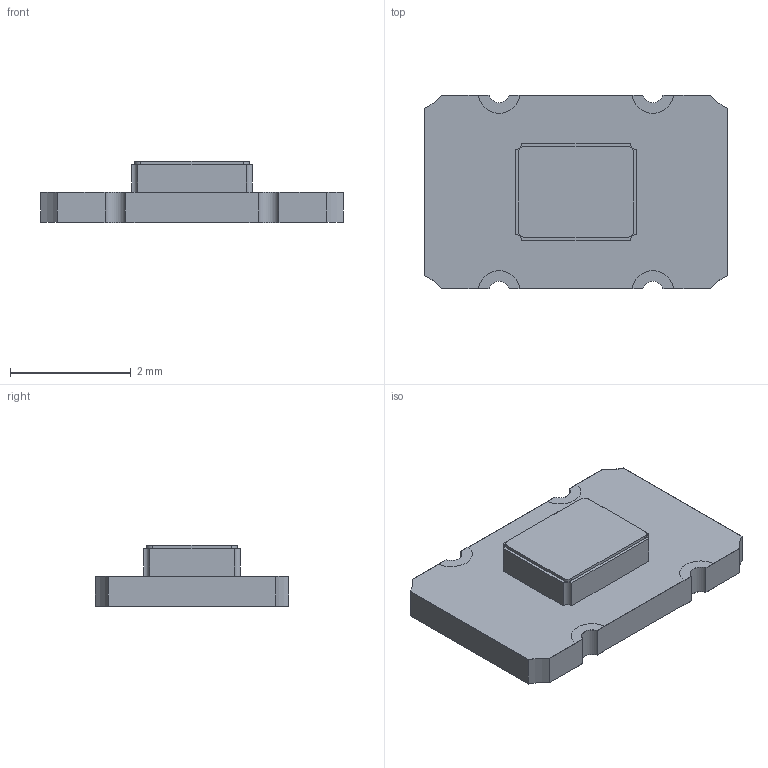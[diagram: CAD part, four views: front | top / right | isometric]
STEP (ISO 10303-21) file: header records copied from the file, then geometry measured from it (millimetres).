
FILE_DESCRIPTION(('FreeCAD Model'),'2;1');
FILE_NAME('Open CASCADE Shape Model','2022-08-09T15:56:14',(''),(''), 'Open CASCADE STEP processor 7.6','FreeCAD','Unknown');
FILE_SCHEMA(('AUTOMOTIVE_DESIGN { 1 0 10303 214 1 1 1 1 }'));
Length unit declared in the file: millimetre
Products named in the file (1): Body
Bounding box: 5 x 3.2 x 1.01 mm (x, y, z)
Volume: 9.4 mm3; surface area: 43.2 mm2
Topology: 1 solids, 1 shells, 118 faces, 299 edges, 186 vertices
Faces by surface type: plane 78, cylinder 40
Entity records: 7476 total; most frequent: CARTESIAN_POINT 1346, DIRECTION 1183, LINE 761, VECTOR 761, ORIENTED_EDGE 598, PCURVE 598, DEFINITIONAL_REPRESENTATION 598, EDGE_CURVE 299
